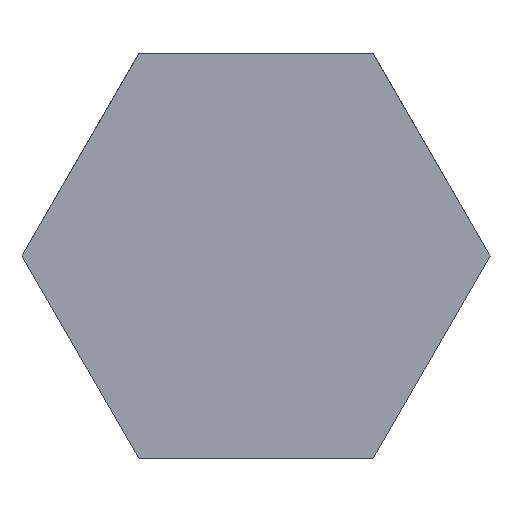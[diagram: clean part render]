
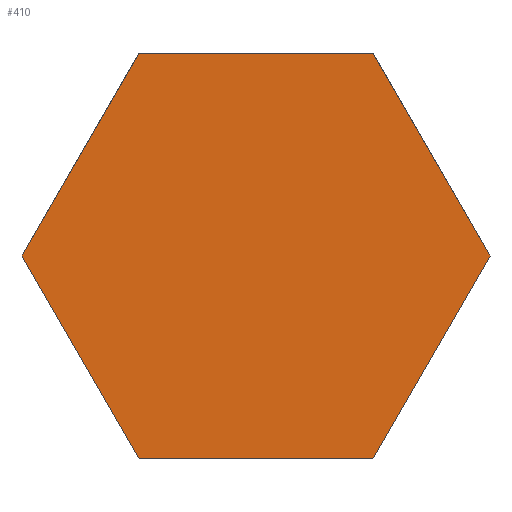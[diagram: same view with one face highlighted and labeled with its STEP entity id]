
A CAD part, left-side view. The second image highlights one B-rep face of the part: STEP entity #410.
In plain terms, the highlighted planar face has unit normal (-1, 0, 0).
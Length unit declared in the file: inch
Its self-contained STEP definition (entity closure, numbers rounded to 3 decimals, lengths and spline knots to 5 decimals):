
#22 = EDGE_CURVE ( 'NONE', #112, #837, #357, .T. ) ;
#26 = EDGE_LOOP ( 'NONE', ( #898, #175, #846, #952, #342, #593 ) ) ;
#36 = EDGE_CURVE ( 'NONE', #546, #746, #477, .T. ) ;
#45 = DIRECTION ( 'NONE',  ( 0., 0.5, 0.866 ) ) ;
#59 = CARTESIAN_POINT ( 'NONE',  ( -1.685, -0.57735, 0. ) ) ;
#112 = VERTEX_POINT ( 'NONE', #286 ) ;
#115 = DIRECTION ( 'NONE',  ( 0., -0.5, -0.866 ) ) ;
#119 = CARTESIAN_POINT ( 'NONE',  ( -1.685, 0.28868, -0.5 ) ) ;
#154 = CARTESIAN_POINT ( 'NONE',  ( -1.685, 0.28868, 0.5 ) ) ;
#174 = FACE_OUTER_BOUND ( 'NONE', #26, .T. ) ;
#175 = ORIENTED_EDGE ( 'NONE', *, *, #553, .F. ) ;
#186 = CARTESIAN_POINT ( 'NONE',  ( -1.685, 0.28868, 0.5 ) ) ;
#213 = DIRECTION ( 'NONE',  ( 0., 0.5, -0.866 ) ) ;
#255 = CARTESIAN_POINT ( 'NONE',  ( -1.685, -0.28868, 0.5 ) ) ;
#286 = CARTESIAN_POINT ( 'NONE',  ( -1.685, -0.28868, -0.5 ) ) ;
#320 = DIRECTION ( 'NONE',  ( 1., 0., 0. ) ) ;
#324 = VECTOR ( 'NONE', #940, 39.37008 ) ;
#342 = ORIENTED_EDGE ( 'NONE', *, *, #517, .F. ) ;
#356 = AXIS2_PLACEMENT_3D ( 'NONE', #808, #320, #969 ) ;
#357 = LINE ( 'NONE', #1024, #324 ) ;
#382 = LINE ( 'NONE', #255, #795 ) ;
#410 = ADVANCED_FACE ( 'NONE', ( #174 ), #482, .F. ) ;
#421 = CARTESIAN_POINT ( 'NONE',  ( -1.685, 0.28868, -0.5 ) ) ;
#439 = VECTOR ( 'NONE', #515, 39.37008 ) ;
#463 = CARTESIAN_POINT ( 'NONE',  ( -1.685, -0.57735, 0. ) ) ;
#477 = LINE ( 'NONE', #154, #490 ) ;
#482 = PLANE ( 'NONE',  #356 ) ;
#490 = VECTOR ( 'NONE', #708, 39.37008 ) ;
#515 = DIRECTION ( 'NONE',  ( 0., -0.5, 0.866 ) ) ;
#517 = EDGE_CURVE ( 'NONE', #837, #806, #1021, .T. ) ;
#536 = CARTESIAN_POINT ( 'NONE',  ( -1.685, -0.28868, 0.5 ) ) ;
#546 = VERTEX_POINT ( 'NONE', #186 ) ;
#553 = EDGE_CURVE ( 'NONE', #746, #687, #382, .T. ) ;
#588 = EDGE_CURVE ( 'NONE', #687, #112, #926, .T. ) ;
#593 = ORIENTED_EDGE ( 'NONE', *, *, #22, .F. ) ;
#687 = VERTEX_POINT ( 'NONE', #463 ) ;
#708 = DIRECTION ( 'NONE',  ( 0., -1., 0. ) ) ;
#731 = CARTESIAN_POINT ( 'NONE',  ( -1.685, 0.57735, 0. ) ) ;
#746 = VERTEX_POINT ( 'NONE', #536 ) ;
#753 = LINE ( 'NONE', #914, #439 ) ;
#795 = VECTOR ( 'NONE', #115, 39.37008 ) ;
#806 = VERTEX_POINT ( 'NONE', #731 ) ;
#808 = CARTESIAN_POINT ( 'NONE',  ( -1.685, -0.28868, -0.5 ) ) ;
#828 = EDGE_CURVE ( 'NONE', #806, #546, #753, .T. ) ;
#837 = VERTEX_POINT ( 'NONE', #119 ) ;
#846 = ORIENTED_EDGE ( 'NONE', *, *, #36, .F. ) ;
#871 = VECTOR ( 'NONE', #45, 39.37008 ) ;
#898 = ORIENTED_EDGE ( 'NONE', *, *, #588, .F. ) ;
#914 = CARTESIAN_POINT ( 'NONE',  ( -1.685, 0.57735, 0. ) ) ;
#926 = LINE ( 'NONE', #59, #942 ) ;
#940 = DIRECTION ( 'NONE',  ( 0., 1., 0. ) ) ;
#942 = VECTOR ( 'NONE', #213, 39.37008 ) ;
#952 = ORIENTED_EDGE ( 'NONE', *, *, #828, .F. ) ;
#969 = DIRECTION ( 'NONE',  ( 0., 1., 0. ) ) ;
#1021 = LINE ( 'NONE', #421, #871 ) ;
#1024 = CARTESIAN_POINT ( 'NONE',  ( -1.685, -0.28868, -0.5 ) ) ;
